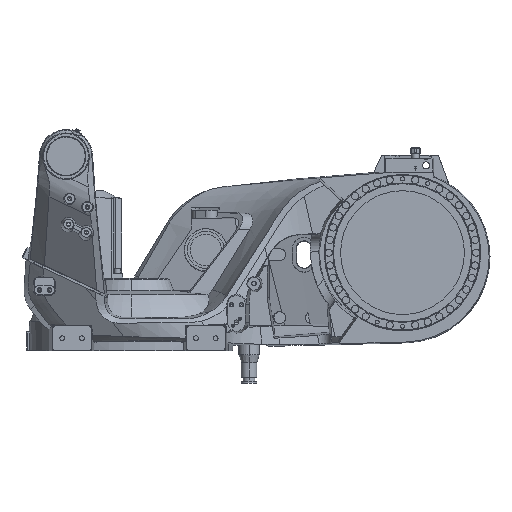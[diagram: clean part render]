
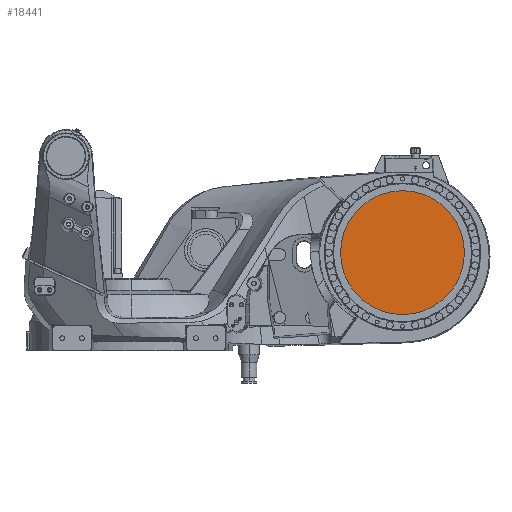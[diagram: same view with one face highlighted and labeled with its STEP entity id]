
A CAD part, front view. The second image highlights one B-rep face of the part: STEP entity #18441.
In plain terms, the highlighted planar face has unit normal (0, -1, 0).
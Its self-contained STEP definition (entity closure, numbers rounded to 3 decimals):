
#3570 = CIRCLE ( 'NONE', #106801, 157.5 ) ;
#5663 = CIRCLE ( 'NONE', #102841, 157.5 ) ;
#9149 = VERTEX_POINT ( 'NONE', #79865 ) ;
#11315 = DIRECTION ( 'NONE',  ( 0., -1., 0. ) ) ;
#14226 = VERTEX_POINT ( 'NONE', #87191 ) ;
#18441 = ADVANCED_FACE ( 'NONE', ( #66021 ), #74327, .F. ) ;
#24929 = DIRECTION ( 'NONE',  ( 0., -1., 0. ) ) ;
#26777 = CARTESIAN_POINT ( 'NONE',  ( 690., -153.5, 530. ) ) ;
#50584 = AXIS2_PLACEMENT_3D ( 'NONE', #76806, #54669, #76185 ) ;
#52528 = ORIENTED_EDGE ( 'NONE', *, *, #111204, .T. ) ;
#54669 = DIRECTION ( 'NONE',  ( 0., 1., 0. ) ) ;
#57586 = EDGE_CURVE ( 'NONE', #14226, #9149, #5663, .T. ) ;
#65447 = DIRECTION ( 'NONE',  ( -1., 0., 0. ) ) ;
#66021 = FACE_OUTER_BOUND ( 'NONE', #105033, .T. ) ;
#66430 = ORIENTED_EDGE ( 'NONE', *, *, #57586, .T. ) ;
#74327 = PLANE ( 'NONE',  #50584 ) ;
#76185 = DIRECTION ( 'NONE',  ( 0.866, 0., 0.5 ) ) ;
#76806 = CARTESIAN_POINT ( 'NONE',  ( 611.558, -153.5, 484.711 ) ) ;
#78563 = DIRECTION ( 'NONE',  ( -1., 0., 0. ) ) ;
#79865 = CARTESIAN_POINT ( 'NONE',  ( 553.601, -153.5, 451.25 ) ) ;
#87191 = CARTESIAN_POINT ( 'NONE',  ( 826.399, -153.5, 608.75 ) ) ;
#102841 = AXIS2_PLACEMENT_3D ( 'NONE', #26777, #24929, #65447 ) ;
#105033 = EDGE_LOOP ( 'NONE', ( #66430, #52528 ) ) ;
#106801 = AXIS2_PLACEMENT_3D ( 'NONE', #108927, #11315, #78563 ) ;
#108927 = CARTESIAN_POINT ( 'NONE',  ( 690., -153.5, 530. ) ) ;
#111204 = EDGE_CURVE ( 'NONE', #9149, #14226, #3570, .T. ) ;
